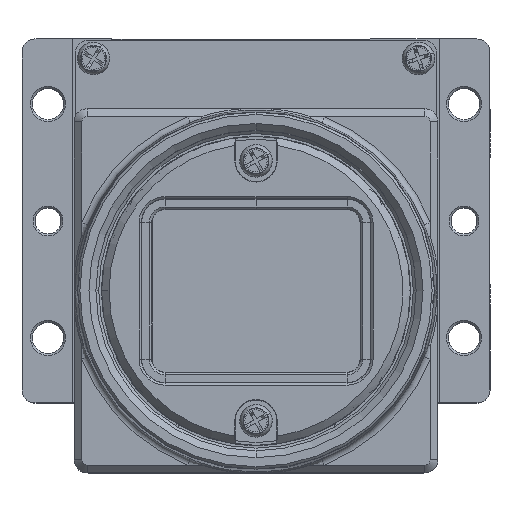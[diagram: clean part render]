
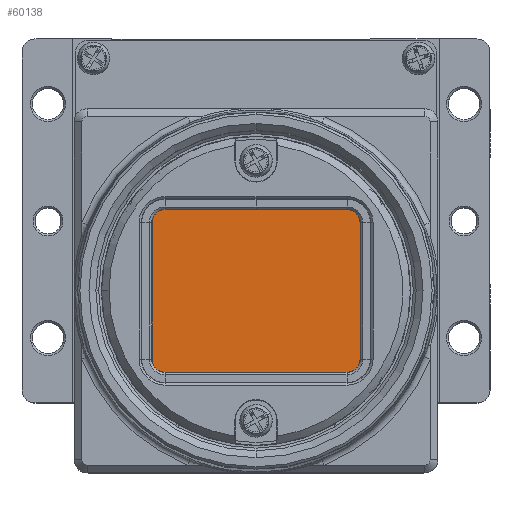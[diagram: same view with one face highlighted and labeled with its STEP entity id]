
A CAD part, top view. The second image highlights one B-rep face of the part: STEP entity #60138.
In plain terms, the highlighted planar face has unit normal (0, 0, 1).
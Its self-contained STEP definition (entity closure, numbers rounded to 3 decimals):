
#7999 = VERTEX_POINT ( 'NONE', #10106 ) ;
#8587 = CARTESIAN_POINT ( 'NONE',  ( -9., -12.904, 157.955 ) ) ;
#10106 = CARTESIAN_POINT ( 'NONE',  ( 9., 1.596, 157.955 ) ) ;
#17078 = EDGE_CURVE ( 'NONE', #7999, #145938, #141542, .T. ) ;
#21225 = DIRECTION ( 'NONE',  ( 0., 0., -1. ) ) ;
#40566 = PLANE ( 'NONE',  #118207 ) ;
#43576 = CARTESIAN_POINT ( 'NONE',  ( -9., 1.596, 157.955 ) ) ;
#51678 = LINE ( 'NONE', #54205, #103767 ) ;
#54205 = CARTESIAN_POINT ( 'NONE',  ( -9., -12.904, 157.955 ) ) ;
#54470 = DIRECTION ( 'NONE',  ( 1., 0., 0. ) ) ;
#57581 = VECTOR ( 'NONE', #73367, 1000. ) ;
#60138 = ADVANCED_FACE ( 'NONE', ( #193993 ), #40566, .F. ) ;
#61533 = ORIENTED_EDGE ( 'NONE', *, *, #141235, .T. ) ;
#61885 = VERTEX_POINT ( 'NONE', #120430 ) ;
#73367 = DIRECTION ( 'NONE',  ( 0., 1., 0. ) ) ;
#85075 = EDGE_CURVE ( 'NONE', #61885, #7999, #246160, .T. ) ;
#97219 = CARTESIAN_POINT ( 'NONE',  ( -9., 1.596, 157.955 ) ) ;
#103767 = VECTOR ( 'NONE', #130325, 1000. ) ;
#111270 = LINE ( 'NONE', #247859, #158835 ) ;
#118207 = AXIS2_PLACEMENT_3D ( 'NONE', #251996, #21225, #134708 ) ;
#120430 = CARTESIAN_POINT ( 'NONE',  ( 9., -12.904, 157.955 ) ) ;
#123624 = VERTEX_POINT ( 'NONE', #8587 ) ;
#124722 = ORIENTED_EDGE ( 'NONE', *, *, #17078, .T. ) ;
#130161 = CARTESIAN_POINT ( 'NONE',  ( 9., -12.904, 157.955 ) ) ;
#130325 = DIRECTION ( 'NONE',  ( 0., -1., 0. ) ) ;
#134418 = EDGE_CURVE ( 'NONE', #145938, #123624, #51678, .T. ) ;
#134708 = DIRECTION ( 'NONE',  ( -1., 0., 0. ) ) ;
#141235 = EDGE_CURVE ( 'NONE', #123624, #61885, #111270, .T. ) ;
#141542 = LINE ( 'NONE', #43576, #255052 ) ;
#145938 = VERTEX_POINT ( 'NONE', #97219 ) ;
#158835 = VECTOR ( 'NONE', #54470, 1000. ) ;
#193993 = FACE_OUTER_BOUND ( 'NONE', #200873, .T. ) ;
#200834 = DIRECTION ( 'NONE',  ( -1., 0., 0. ) ) ;
#200873 = EDGE_LOOP ( 'NONE', ( #234333, #124722, #248855, #61533 ) ) ;
#234333 = ORIENTED_EDGE ( 'NONE', *, *, #85075, .T. ) ;
#246160 = LINE ( 'NONE', #130161, #57581 ) ;
#247859 = CARTESIAN_POINT ( 'NONE',  ( -9., -12.904, 157.955 ) ) ;
#248855 = ORIENTED_EDGE ( 'NONE', *, *, #134418, .T. ) ;
#251996 = CARTESIAN_POINT ( 'NONE',  ( 0., -5.654, 157.955 ) ) ;
#255052 = VECTOR ( 'NONE', #200834, 1000. ) ;
